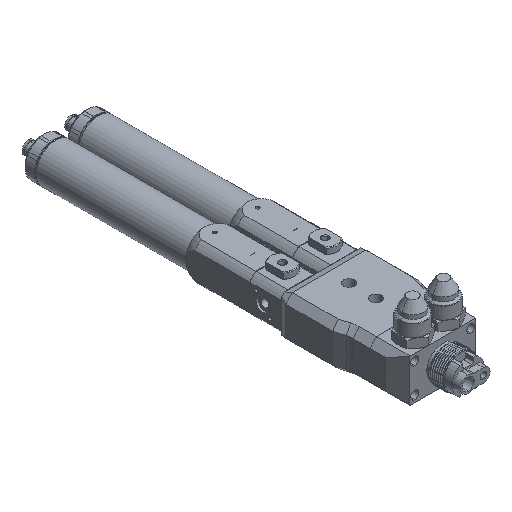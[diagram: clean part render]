
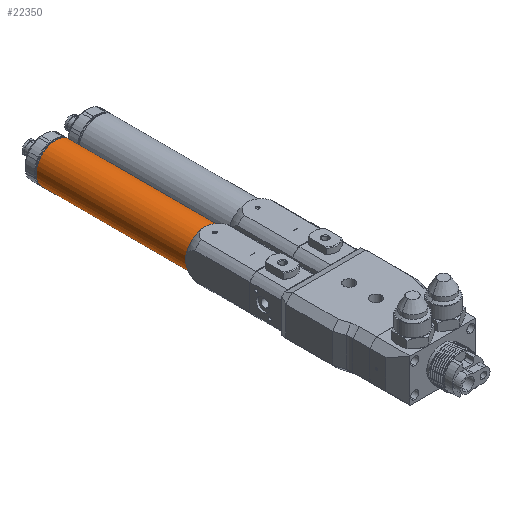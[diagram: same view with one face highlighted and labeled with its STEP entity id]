
A CAD part, isometric view. The second image highlights one B-rep face of the part: STEP entity #22350.
In plain terms, the highlighted cylindrical face has radius 14.5 mm (diameter 29 mm), a full revolution.
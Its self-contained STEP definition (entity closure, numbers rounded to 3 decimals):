
#1703 = VERTEX_POINT ( 'NONE', #29808 ) ;
#2796 = CARTESIAN_POINT ( 'NONE',  ( -16.989, 139.049, 998.603 ) ) ;
#2945 = DIRECTION ( 'NONE',  ( 0., 1., 0. ) ) ;
#3992 = DIRECTION ( 'NONE',  ( 0., 0., -1. ) ) ;
#4733 = AXIS2_PLACEMENT_3D ( 'NONE', #35466, #2945, #35659 ) ;
#5239 = AXIS2_PLACEMENT_3D ( 'NONE', #2796, #20864, #36118 ) ;
#6199 = CARTESIAN_POINT ( 'NONE',  ( -16.989, 27.249, 998.603 ) ) ;
#6970 = CIRCLE ( 'NONE', #21527, 14.5 ) ;
#7803 = CIRCLE ( 'NONE', #5239, 14.5 ) ;
#7863 = CARTESIAN_POINT ( 'NONE',  ( -16.989, 27.249, 984.103 ) ) ;
#8148 = CARTESIAN_POINT ( 'NONE',  ( -16.989, 27.249, 998.603 ) ) ;
#9813 = FACE_OUTER_BOUND ( 'NONE', #13274, .T. ) ;
#9937 = ORIENTED_EDGE ( 'NONE', *, *, #22125, .T. ) ;
#10207 = FACE_OUTER_BOUND ( 'NONE', #21814, .T. ) ;
#10883 = CARTESIAN_POINT ( 'NONE',  ( -16.989, 139.049, 998.603 ) ) ;
#11095 = CIRCLE ( 'NONE', #4733, 14.5 ) ;
#11451 = EDGE_CURVE ( 'NONE', #28051, #31966, #7803, .T. ) ;
#12228 = ORIENTED_EDGE ( 'NONE', *, *, #14985, .T. ) ;
#12677 = CARTESIAN_POINT ( 'NONE',  ( -2.489, 27.249, 998.603 ) ) ;
#12974 = CARTESIAN_POINT ( 'NONE',  ( -31.489, 27.249, 998.603 ) ) ;
#13274 = EDGE_LOOP ( 'NONE', ( #9937, #34512 ) ) ;
#14985 = EDGE_CURVE ( 'NONE', #1703, #29867, #33984, .T. ) ;
#15473 = AXIS2_PLACEMENT_3D ( 'NONE', #6199, #18885, #3992 ) ;
#16796 = VERTEX_POINT ( 'NONE', #7863 ) ;
#16878 = AXIS2_PLACEMENT_3D ( 'NONE', #30554, #29965, #18265 ) ;
#18265 = DIRECTION ( 'NONE',  ( 0., 0., -1. ) ) ;
#18885 = DIRECTION ( 'NONE',  ( 0., 1., 0. ) ) ;
#20864 = DIRECTION ( 'NONE',  ( 0., -1., 0. ) ) ;
#21527 = AXIS2_PLACEMENT_3D ( 'NONE', #8148, #22833, #34922 ) ;
#21814 = EDGE_LOOP ( 'NONE', ( #27711, #34363, #31027, #12228 ) ) ;
#21913 = CYLINDRICAL_SURFACE ( 'NONE', #33857, 14.5 ) ;
#22115 = CARTESIAN_POINT ( 'NONE',  ( -16.989, 23.312, 998.603 ) ) ;
#22125 = EDGE_CURVE ( 'NONE', #31966, #28051, #33285, .T. ) ;
#22350 = ADVANCED_FACE ( 'NONE', ( #10207, #9813 ), #21913, .T. ) ;
#22710 = EDGE_CURVE ( 'NONE', #29867, #16796, #23083, .T. ) ;
#22833 = DIRECTION ( 'NONE',  ( 0., 1., 0. ) ) ;
#23083 = CIRCLE ( 'NONE', #15473, 14.5 ) ;
#26547 = CARTESIAN_POINT ( 'NONE',  ( -16.989, 139.049, 984.103 ) ) ;
#26953 = AXIS2_PLACEMENT_3D ( 'NONE', #10883, #36196, #36398 ) ;
#27711 = ORIENTED_EDGE ( 'NONE', *, *, #22710, .T. ) ;
#28051 = VERTEX_POINT ( 'NONE', #26547 ) ;
#28697 = EDGE_CURVE ( 'NONE', #30694, #1703, #6970, .T. ) ;
#29808 = CARTESIAN_POINT ( 'NONE',  ( -16.989, 27.249, 1013.103 ) ) ;
#29867 = VERTEX_POINT ( 'NONE', #12677 ) ;
#29965 = DIRECTION ( 'NONE',  ( 0., 1., 0. ) ) ;
#30554 = CARTESIAN_POINT ( 'NONE',  ( -16.989, 27.249, 998.603 ) ) ;
#30694 = VERTEX_POINT ( 'NONE', #12974 ) ;
#31027 = ORIENTED_EDGE ( 'NONE', *, *, #28697, .T. ) ;
#31966 = VERTEX_POINT ( 'NONE', #36127 ) ;
#33285 = CIRCLE ( 'NONE', #26953, 14.5 ) ;
#33857 = AXIS2_PLACEMENT_3D ( 'NONE', #22115, #34016, #34215 ) ;
#33984 = CIRCLE ( 'NONE', #16878, 14.5 ) ;
#34016 = DIRECTION ( 'NONE',  ( 0., -1., 0. ) ) ;
#34215 = DIRECTION ( 'NONE',  ( 0., 0., -1. ) ) ;
#34363 = ORIENTED_EDGE ( 'NONE', *, *, #35086, .T. ) ;
#34512 = ORIENTED_EDGE ( 'NONE', *, *, #11451, .T. ) ;
#34922 = DIRECTION ( 'NONE',  ( 0., 0., -1. ) ) ;
#35086 = EDGE_CURVE ( 'NONE', #16796, #30694, #11095, .T. ) ;
#35466 = CARTESIAN_POINT ( 'NONE',  ( -16.989, 27.249, 998.603 ) ) ;
#35659 = DIRECTION ( 'NONE',  ( 0., 0., -1. ) ) ;
#36118 = DIRECTION ( 'NONE',  ( 0., 0., -1. ) ) ;
#36127 = CARTESIAN_POINT ( 'NONE',  ( -16.989, 139.049, 1013.103 ) ) ;
#36196 = DIRECTION ( 'NONE',  ( 0., -1., 0. ) ) ;
#36398 = DIRECTION ( 'NONE',  ( 0., 0., -1. ) ) ;
